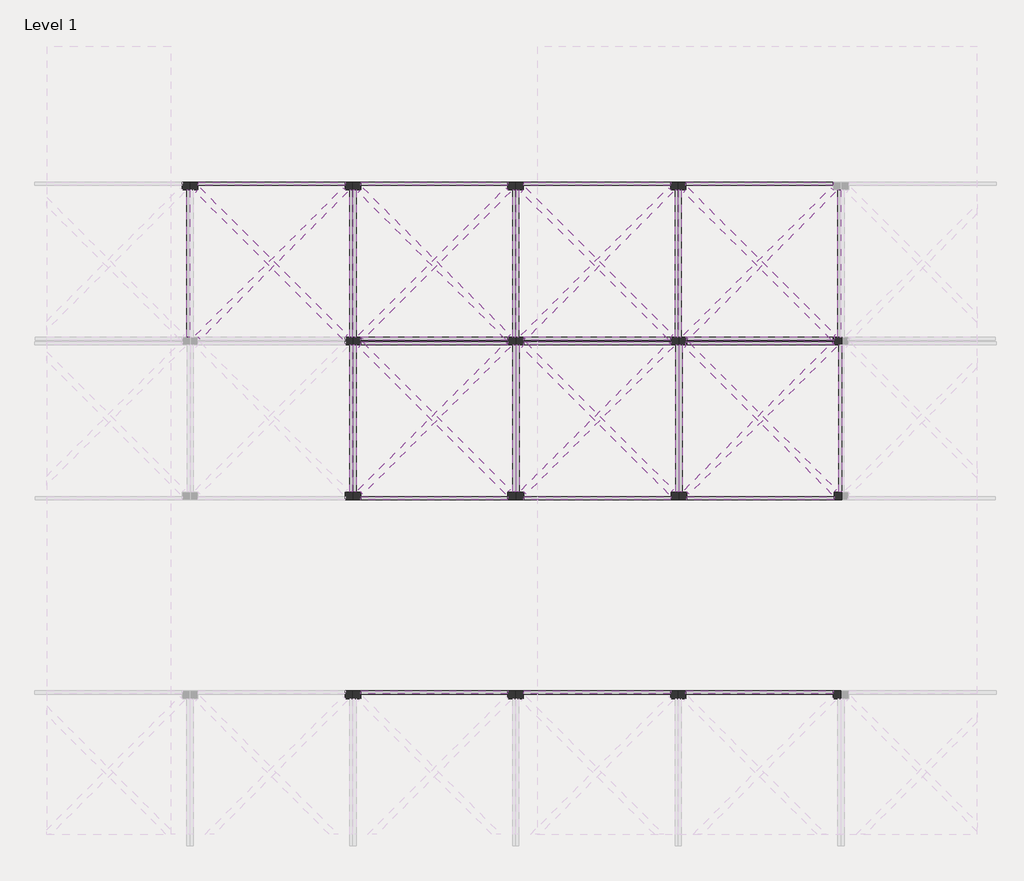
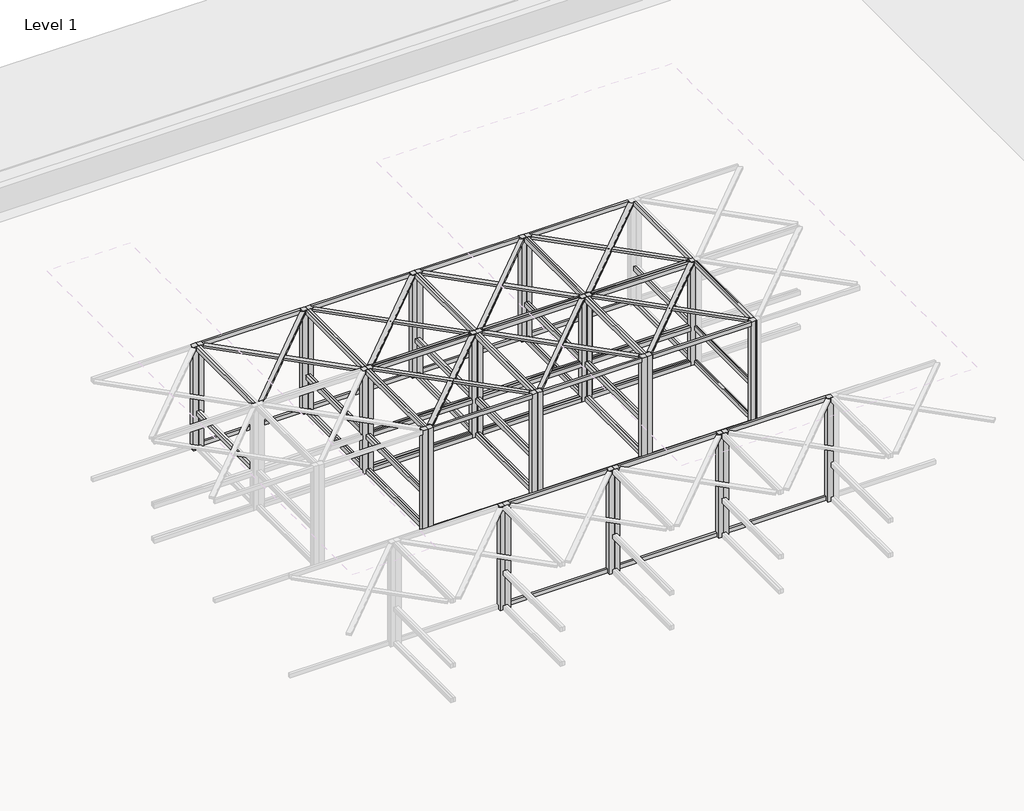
# One storey, part 24 of 32: 96 beams, 36 columns.
"""IFC4 building model written with IfcOpenShell, lengths in millimetres."""

from ifc_helpers import new_model, si_unit, origin, place, context, project, spatial, transform, mapped, element, save
from components import timber_gauged_nz_100_x_50_a05adcf6, timber_gauged_nz_100_x_50_e4b9d06e, timber_gauged_nz_100_x_50_66b63d81, timber_gauged_nz_100_x_50_718b6390, timber_gauged_nz_100_x_50_7774ab14, timber_gauged_nz_100_x_50_be6c7ca1, timber_gauged_nz_100_x_50_6be5a70a, timber_gauged_nz_100_x_50_7b7bee40, timber_gauged_nz_100_x_50_flat_212af973, timber_gauged_nz_100_x_50_flat_8016973c, column_timber_m_114x114_3b5997c2

model = new_model("IFC4")

# Units and contexts
model_context = context("Model", 3, world=origin())
ifc_project = project(units=[si_unit("LENGTHUNIT", "METRE", prefix="MILLI")], contexts=[model_context])

# Site, building, storey
site = spatial("IfcSite", under=ifc_project)
building = spatial("IfcBuilding", under=site)
storey = spatial("IfcBuildingStorey", under=building, Name="Level 1", Elevation=2800.0)

# Beams
placement = place(None, origin())
timber_gauged_nz_100_x_50_shape = timber_gauged_nz_100_x_50_a05adcf6(model_context)
element("IfcBeam", 1, ObjectType="Timber Gauged (NZ) : 100 x 50", at=placement, inside=storey, context=model_context, shape_type="MappedRepresentation", body=[
    mapped(timber_gauged_nz_100_x_50_shape, transform((-69999.6556755, -2611.9011548, 2847.0), x_axis=(1.0, 0.0, 0.0), y_axis=(0.0, 1.0, 0.0), z_axis=(0.0, 0.0, 1.0))),
])
element("IfcBeam", 2, ObjectType="Timber Gauged (NZ) : 100 x 50", at=placement, inside=storey, context=model_context, shape_type="MappedRepresentation", body=[
    mapped(timber_gauged_nz_100_x_50_shape, transform((-67595.3056755, -2611.9011548, 2847.0), x_axis=(1.0, 0.0, 0.0), y_axis=(0.0, 1.0, 0.0), z_axis=(0.0, 0.0, 1.0))),
])
element("IfcBeam", 3, ObjectType="Timber Gauged (NZ) : 100 x 50", at=placement, inside=storey, context=model_context, shape_type="MappedRepresentation", body=[
    mapped(timber_gauged_nz_100_x_50_shape, transform((-65190.9556755, -2611.9011548, 2847.0), x_axis=(1.0, 0.0, 0.0), y_axis=(0.0, 1.0, 0.0), z_axis=(0.0, 0.0, 1.0))),
])
element("IfcBeam", 4, ObjectType="Timber Gauged (NZ) : 100 x 50", at=placement, inside=storey, context=model_context, shape_type="MappedRepresentation", body=[
    mapped(timber_gauged_nz_100_x_50_shape, transform((-65204.0056755, -2682.1175809, 2847.0), x_axis=(-1.0, 0.0, 0.0), y_axis=(0.0, -1.0, 0.0), z_axis=(0.0, 0.0, 1.0))),
])
element("IfcBeam", 5, ObjectType="Timber Gauged (NZ) : 100 x 50", at=placement, inside=storey, context=model_context, shape_type="MappedRepresentation", body=[
    mapped(timber_gauged_nz_100_x_50_shape, transform((-67599.6556755, -2682.1175809, 2847.0), x_axis=(-1.0, 0.0, 0.0), y_axis=(0.0, -1.0, 0.0), z_axis=(0.0, 0.0, 1.0))),
])
element("IfcBeam", 6, ObjectType="Timber Gauged (NZ) : 100 x 50", at=placement, inside=storey, context=model_context, shape_type="MappedRepresentation", body=[
    mapped(timber_gauged_nz_100_x_50_shape, transform((-69999.6556755, -2682.1175809, 2847.0), x_axis=(-1.0, 0.0, 0.0), y_axis=(0.0, -1.0, 0.0), z_axis=(0.0, 0.0, 1.0))),
])
timber_gauged_nz_100_x_50_2_shape = timber_gauged_nz_100_x_50_e4b9d06e(model_context)
element("IfcBeam", 7, ObjectType="Timber Gauged (NZ) : 100 x 50", at=placement, inside=storey, context=model_context, shape_type="MappedRepresentation", body=[
    mapped(timber_gauged_nz_100_x_50_2_shape, transform((-65190.8306755, -7829.1175809, 2847.0), x_axis=(-1.0, 0.0, 0.0), y_axis=(0.0, -1.0, 0.0), z_axis=(0.0, 0.0, 1.0))),
])
element("IfcBeam", 8, ObjectType="Timber Gauged (NZ) : 100 x 50", at=placement, inside=storey, context=model_context, shape_type="MappedRepresentation", body=[
    mapped(timber_gauged_nz_100_x_50_2_shape, transform((-67586.4806755, -7829.1175809, 2847.0), x_axis=(-1.0, 0.0, 0.0), y_axis=(0.0, -1.0, 0.0), z_axis=(0.0, 0.0, 1.0))),
])
element("IfcBeam", 9, ObjectType="Timber Gauged (NZ) : 100 x 50", at=placement, inside=storey, context=model_context, shape_type="MappedRepresentation", body=[
    mapped(timber_gauged_nz_100_x_50_2_shape, transform((-69986.4806755, -7829.1175809, 2847.0), x_axis=(-1.0, 0.0, 0.0), y_axis=(0.0, -1.0, 0.0), z_axis=(0.0, 0.0, 1.0))),
])
element("IfcBeam", 10, ObjectType="Timber Gauged (NZ) : 100 x 50", at=placement, inside=storey, context=model_context, shape_type="MappedRepresentation", body=[
    mapped(timber_gauged_nz_100_x_50_2_shape, transform((-70012.8306755, -4964.9011548, 2847.0), x_axis=(1.0, 0.0, 0.0), y_axis=(0.0, 1.0, 0.0), z_axis=(0.0, 0.0, 1.0))),
])
element("IfcBeam", 11, ObjectType="Timber Gauged (NZ) : 100 x 50", at=placement, inside=storey, context=model_context, shape_type="MappedRepresentation", body=[
    mapped(timber_gauged_nz_100_x_50_2_shape, transform((-67608.4806755, -4964.9011548, 2847.0), x_axis=(1.0, 0.0, 0.0), y_axis=(0.0, 1.0, 0.0), z_axis=(0.0, 0.0, 1.0))),
])
element("IfcBeam", 12, ObjectType="Timber Gauged (NZ) : 100 x 50", at=placement, inside=storey, context=model_context, shape_type="MappedRepresentation", body=[
    mapped(timber_gauged_nz_100_x_50_2_shape, transform((-65204.1306755, -4964.9011548, 2847.0), x_axis=(1.0, 0.0, 0.0), y_axis=(0.0, 1.0, 0.0), z_axis=(0.0, 0.0, 1.0))),
])
element("IfcBeam", 13, ObjectType="Timber Gauged (NZ) : 100 x 50", at=placement, inside=storey, context=model_context, shape_type="MappedRepresentation", body=[
    mapped(timber_gauged_nz_100_x_50_2_shape, transform((-65190.8306755, -329.1175809, 2847.0), x_axis=(-1.0, 0.0, 0.0), y_axis=(0.0, -1.0, 0.0), z_axis=(0.0, 0.0, 1.0))),
])
element("IfcBeam", 14, ObjectType="Timber Gauged (NZ) : 100 x 50", at=placement, inside=storey, context=model_context, shape_type="MappedRepresentation", body=[
    mapped(timber_gauged_nz_100_x_50_2_shape, transform((-67586.4806755, -329.1175809, 2847.0), x_axis=(-1.0, 0.0, 0.0), y_axis=(0.0, -1.0, 0.0), z_axis=(0.0, 0.0, 1.0))),
])
element("IfcBeam", 15, ObjectType="Timber Gauged (NZ) : 100 x 50", at=placement, inside=storey, context=model_context, shape_type="MappedRepresentation", body=[
    mapped(timber_gauged_nz_100_x_50_2_shape, transform((-69986.4806755, -329.1175809, 2847.0), x_axis=(-1.0, 0.0, 0.0), y_axis=(0.0, -1.0, 0.0), z_axis=(0.0, 0.0, 1.0))),
])
element("IfcBeam", 16, ObjectType="Timber Gauged (NZ) : 100 x 50", at=placement, inside=storey, context=model_context, shape_type="MappedRepresentation", body=[
    mapped(timber_gauged_nz_100_x_50_2_shape, transform((-72386.4806755, -329.1175809, 2847.0), x_axis=(-1.0, 0.0, 0.0), y_axis=(0.0, -1.0, 0.0), z_axis=(0.0, 0.0, 1.0))),
])
timber_gauged_nz_100_x_50_3_shape = timber_gauged_nz_100_x_50_66b63d81(model_context)
element("IfcBeam", 17, ObjectType="Timber Gauged (NZ) : 100 x 50", at=placement, inside=storey, context=model_context, shape_type="MappedRepresentation", body=[
    mapped(timber_gauged_nz_100_x_50_3_shape, transform((-71176.1556755, -3788.4011548, 2847.0), x_axis=(0.0, -1.0, 0.0), y_axis=(1.0, 0.0, 0.0), z_axis=(0.0, 0.0, 1.0))),
])
element("IfcBeam", 18, ObjectType="Timber Gauged (NZ) : 100 x 50", at=placement, inside=storey, context=model_context, shape_type="MappedRepresentation", body=[
    mapped(timber_gauged_nz_100_x_50_3_shape, transform((-68771.8056755, -3788.4011548, 2847.0), x_axis=(0.0, -1.0, 0.0), y_axis=(1.0, 0.0, 0.0), z_axis=(0.0, 0.0, 1.0))),
])
element("IfcBeam", 19, ObjectType="Timber Gauged (NZ) : 100 x 50", at=placement, inside=storey, context=model_context, shape_type="MappedRepresentation", body=[
    mapped(timber_gauged_nz_100_x_50_3_shape, transform((-66367.4556755, -3788.4011548, 2847.0), x_axis=(0.0, -1.0, 0.0), y_axis=(1.0, 0.0, 0.0), z_axis=(0.0, 0.0, 1.0))),
])
element("IfcBeam", 20, ObjectType="Timber Gauged (NZ) : 100 x 50", at=placement, inside=storey, context=model_context, shape_type="MappedRepresentation", body=[
    mapped(timber_gauged_nz_100_x_50_3_shape, transform((-64027.5056755, -1505.6175809, 2847.0), x_axis=(0.0, 1.0, 0.0), y_axis=(-1.0, 0.0, 0.0), z_axis=(0.0, 0.0, 1.0))),
])
element("IfcBeam", 21, ObjectType="Timber Gauged (NZ) : 100 x 50", at=placement, inside=storey, context=model_context, shape_type="MappedRepresentation", body=[
    mapped(timber_gauged_nz_100_x_50_3_shape, transform((-66423.1556755, -1505.6175809, 2847.0), x_axis=(0.0, 1.0, 0.0), y_axis=(-1.0, 0.0, 0.0), z_axis=(0.0, 0.0, 1.0))),
])
element("IfcBeam", 22, ObjectType="Timber Gauged (NZ) : 100 x 50", at=placement, inside=storey, context=model_context, shape_type="MappedRepresentation", body=[
    mapped(timber_gauged_nz_100_x_50_3_shape, transform((-68823.1556755, -1505.6175809, 2847.0), x_axis=(0.0, 1.0, 0.0), y_axis=(-1.0, 0.0, 0.0), z_axis=(0.0, 0.0, 1.0))),
])
element("IfcBeam", 23, ObjectType="Timber Gauged (NZ) : 100 x 50", at=placement, inside=storey, context=model_context, shape_type="MappedRepresentation", body=[
    mapped(timber_gauged_nz_100_x_50_3_shape, transform((-71223.1556755, -1505.6175809, 2847.0), x_axis=(0.0, 1.0, 0.0), y_axis=(-1.0, 0.0, 0.0), z_axis=(0.0, 0.0, 1.0))),
])
element("IfcBeam", 24, ObjectType="Timber Gauged (NZ) : 100 x 50", at=placement, inside=storey, context=model_context, shape_type="MappedRepresentation", body=[
    mapped(timber_gauged_nz_100_x_50_3_shape, transform((-71223.1556755, -3788.4011548, 2847.0), x_axis=(0.0, -1.0, 0.0), y_axis=(1.0, 0.0, 0.0), z_axis=(0.0, 0.0, 1.0))),
])
element("IfcBeam", 25, ObjectType="Timber Gauged (NZ) : 100 x 50", at=placement, inside=storey, context=model_context, shape_type="MappedRepresentation", body=[
    mapped(timber_gauged_nz_100_x_50_3_shape, transform((-68823.1556755, -3788.4011548, 2847.0), x_axis=(0.0, -1.0, 0.0), y_axis=(1.0, 0.0, 0.0), z_axis=(0.0, 0.0, 1.0))),
])
element("IfcBeam", 26, ObjectType="Timber Gauged (NZ) : 100 x 50", at=placement, inside=storey, context=model_context, shape_type="MappedRepresentation", body=[
    mapped(timber_gauged_nz_100_x_50_3_shape, transform((-66418.8056755, -3788.4011548, 2847.0), x_axis=(0.0, -1.0, 0.0), y_axis=(1.0, 0.0, 0.0), z_axis=(0.0, 0.0, 1.0))),
])
element("IfcBeam", 27, ObjectType="Timber Gauged (NZ) : 100 x 50", at=placement, inside=storey, context=model_context, shape_type="MappedRepresentation", body=[
    mapped(timber_gauged_nz_100_x_50_3_shape, transform((-64014.4556755, -3788.4011548, 2847.0), x_axis=(0.0, -1.0, 0.0), y_axis=(1.0, 0.0, 0.0), z_axis=(0.0, 0.0, 1.0))),
])
element("IfcBeam", 28, ObjectType="Timber Gauged (NZ) : 100 x 50", at=placement, inside=storey, context=model_context, shape_type="MappedRepresentation", body=[
    mapped(timber_gauged_nz_100_x_50_3_shape, transform((-66380.5056755, -1505.6175809, 2847.0), x_axis=(0.0, 1.0, 0.0), y_axis=(-1.0, 0.0, 0.0), z_axis=(0.0, 0.0, 1.0))),
])
element("IfcBeam", 29, ObjectType="Timber Gauged (NZ) : 100 x 50", at=placement, inside=storey, context=model_context, shape_type="MappedRepresentation", body=[
    mapped(timber_gauged_nz_100_x_50_3_shape, transform((-68776.1556755, -1505.6175809, 2847.0), x_axis=(0.0, 1.0, 0.0), y_axis=(-1.0, 0.0, 0.0), z_axis=(0.0, 0.0, 1.0))),
])
element("IfcBeam", 30, ObjectType="Timber Gauged (NZ) : 100 x 50", at=placement, inside=storey, context=model_context, shape_type="MappedRepresentation", body=[
    mapped(timber_gauged_nz_100_x_50_3_shape, transform((-71176.1556755, -1505.6175809, 2847.0), x_axis=(0.0, 1.0, 0.0), y_axis=(-1.0, 0.0, 0.0), z_axis=(0.0, 0.0, 1.0))),
])
timber_gauged_nz_100_x_50_4_shape = timber_gauged_nz_100_x_50_718b6390(model_context)
element("IfcBeam", 31, ObjectType="Timber Gauged (NZ) : 100 x 50", at=placement, inside=storey, context=model_context, shape_type="MappedRepresentation", body=[
    mapped(timber_gauged_nz_100_x_50_4_shape, transform((-70007.5056755, -2611.9011548, 5153.0), x_axis=(1.0, 0.0, 0.0), y_axis=(0.0, 1.0, 0.0), z_axis=(0.0, 0.0, 1.0))),
])
element("IfcBeam", 32, ObjectType="Timber Gauged (NZ) : 100 x 50", at=placement, inside=storey, context=model_context, shape_type="MappedRepresentation", body=[
    mapped(timber_gauged_nz_100_x_50_4_shape, transform((-70007.5056755, -2611.9011548, 3653.0), x_axis=(1.0, 0.0, 0.0), y_axis=(0.0, 1.0, 0.0), z_axis=(0.0, 0.0, 1.0))),
])
element("IfcBeam", 33, ObjectType="Timber Gauged (NZ) : 100 x 50", at=placement, inside=storey, context=model_context, shape_type="MappedRepresentation", body=[
    mapped(timber_gauged_nz_100_x_50_4_shape, transform((-67603.1556755, -2611.9011548, 5153.0), x_axis=(1.0, 0.0, 0.0), y_axis=(0.0, 1.0, 0.0), z_axis=(0.0, 0.0, 1.0))),
])
element("IfcBeam", 34, ObjectType="Timber Gauged (NZ) : 100 x 50", at=placement, inside=storey, context=model_context, shape_type="MappedRepresentation", body=[
    mapped(timber_gauged_nz_100_x_50_4_shape, transform((-67603.1556755, -2611.9011548, 3653.0), x_axis=(1.0, 0.0, 0.0), y_axis=(0.0, 1.0, 0.0), z_axis=(0.0, 0.0, 1.0))),
])
element("IfcBeam", 35, ObjectType="Timber Gauged (NZ) : 100 x 50", at=placement, inside=storey, context=model_context, shape_type="MappedRepresentation", body=[
    mapped(timber_gauged_nz_100_x_50_4_shape, transform((-65198.8056755, -2611.9011548, 5153.0), x_axis=(1.0, 0.0, 0.0), y_axis=(0.0, 1.0, 0.0), z_axis=(0.0, 0.0, 1.0))),
])
element("IfcBeam", 36, ObjectType="Timber Gauged (NZ) : 100 x 50", at=placement, inside=storey, context=model_context, shape_type="MappedRepresentation", body=[
    mapped(timber_gauged_nz_100_x_50_4_shape, transform((-65198.8056755, -2611.9011548, 3653.0), x_axis=(1.0, 0.0, 0.0), y_axis=(0.0, 1.0, 0.0), z_axis=(0.0, 0.0, 1.0))),
])
element("IfcBeam", 37, ObjectType="Timber Gauged (NZ) : 100 x 50", at=placement, inside=storey, context=model_context, shape_type="MappedRepresentation", body=[
    mapped(timber_gauged_nz_100_x_50_4_shape, transform((-65196.1556755, -2682.1175809, 5153.0), x_axis=(-1.0, 0.0, 0.0), y_axis=(0.0, -1.0, 0.0), z_axis=(0.0, 0.0, 1.0))),
])
element("IfcBeam", 38, ObjectType="Timber Gauged (NZ) : 100 x 50", at=placement, inside=storey, context=model_context, shape_type="MappedRepresentation", body=[
    mapped(timber_gauged_nz_100_x_50_4_shape, transform((-65196.1556755, -2682.1175809, 3653.0), x_axis=(-1.0, 0.0, 0.0), y_axis=(0.0, -1.0, 0.0), z_axis=(0.0, 0.0, 1.0))),
])
element("IfcBeam", 39, ObjectType="Timber Gauged (NZ) : 100 x 50", at=placement, inside=storey, context=model_context, shape_type="MappedRepresentation", body=[
    mapped(timber_gauged_nz_100_x_50_4_shape, transform((-67591.8056755, -2682.1175809, 5153.0), x_axis=(-1.0, 0.0, 0.0), y_axis=(0.0, -1.0, 0.0), z_axis=(0.0, 0.0, 1.0))),
])
element("IfcBeam", 40, ObjectType="Timber Gauged (NZ) : 100 x 50", at=placement, inside=storey, context=model_context, shape_type="MappedRepresentation", body=[
    mapped(timber_gauged_nz_100_x_50_4_shape, transform((-67591.8056755, -2682.1175809, 3653.0), x_axis=(-1.0, 0.0, 0.0), y_axis=(0.0, -1.0, 0.0), z_axis=(0.0, 0.0, 1.0))),
])
element("IfcBeam", 41, ObjectType="Timber Gauged (NZ) : 100 x 50", at=placement, inside=storey, context=model_context, shape_type="MappedRepresentation", body=[
    mapped(timber_gauged_nz_100_x_50_4_shape, transform((-69991.8056755, -2682.1175809, 5153.0), x_axis=(-1.0, 0.0, 0.0), y_axis=(0.0, -1.0, 0.0), z_axis=(0.0, 0.0, 1.0))),
])
element("IfcBeam", 42, ObjectType="Timber Gauged (NZ) : 100 x 50", at=placement, inside=storey, context=model_context, shape_type="MappedRepresentation", body=[
    mapped(timber_gauged_nz_100_x_50_4_shape, transform((-69991.8056755, -2682.1175809, 3653.0), x_axis=(-1.0, 0.0, 0.0), y_axis=(0.0, -1.0, 0.0), z_axis=(0.0, 0.0, 1.0))),
])
timber_gauged_nz_100_x_50_5_shape = timber_gauged_nz_100_x_50_7774ab14(model_context)
element("IfcBeam", 43, ObjectType="Timber Gauged (NZ) : 100 x 50", at=placement, inside=storey, context=model_context, shape_type="MappedRepresentation", body=[
    mapped(timber_gauged_nz_100_x_50_5_shape, transform((-65208.6556755, -7829.1175809, 5153.0), x_axis=(-1.0, 0.0, 0.0), y_axis=(0.0, -1.0, 0.0), z_axis=(0.0, 0.0, 1.0))),
])
element("IfcBeam", 44, ObjectType="Timber Gauged (NZ) : 100 x 50", at=placement, inside=storey, context=model_context, shape_type="MappedRepresentation", body=[
    mapped(timber_gauged_nz_100_x_50_5_shape, transform((-67604.3056755, -7829.1175809, 5153.0), x_axis=(-1.0, 0.0, 0.0), y_axis=(0.0, -1.0, 0.0), z_axis=(0.0, 0.0, 1.0))),
])
element("IfcBeam", 45, ObjectType="Timber Gauged (NZ) : 100 x 50", at=placement, inside=storey, context=model_context, shape_type="MappedRepresentation", body=[
    mapped(timber_gauged_nz_100_x_50_5_shape, transform((-70004.3056755, -7829.1175809, 5153.0), x_axis=(-1.0, 0.0, 0.0), y_axis=(0.0, -1.0, 0.0), z_axis=(0.0, 0.0, 1.0))),
])
element("IfcBeam", 46, ObjectType="Timber Gauged (NZ) : 100 x 50", at=placement, inside=storey, context=model_context, shape_type="MappedRepresentation", body=[
    mapped(timber_gauged_nz_100_x_50_5_shape, transform((-69995.0056755, -4964.9011548, 5153.0), x_axis=(1.0, 0.0, 0.0), y_axis=(0.0, 1.0, 0.0), z_axis=(0.0, 0.0, 1.0))),
])
element("IfcBeam", 47, ObjectType="Timber Gauged (NZ) : 100 x 50", at=placement, inside=storey, context=model_context, shape_type="MappedRepresentation", body=[
    mapped(timber_gauged_nz_100_x_50_5_shape, transform((-67590.6556755, -4964.9011548, 5153.0), x_axis=(1.0, 0.0, 0.0), y_axis=(0.0, 1.0, 0.0), z_axis=(0.0, 0.0, 1.0))),
])
element("IfcBeam", 48, ObjectType="Timber Gauged (NZ) : 100 x 50", at=placement, inside=storey, context=model_context, shape_type="MappedRepresentation", body=[
    mapped(timber_gauged_nz_100_x_50_5_shape, transform((-65186.3056755, -4964.9011548, 5153.0), x_axis=(1.0, 0.0, 0.0), y_axis=(0.0, 1.0, 0.0), z_axis=(0.0, 0.0, 1.0))),
])
element("IfcBeam", 49, ObjectType="Timber Gauged (NZ) : 100 x 50", at=placement, inside=storey, context=model_context, shape_type="MappedRepresentation", body=[
    mapped(timber_gauged_nz_100_x_50_5_shape, transform((-65208.6556755, -329.1175809, 5153.0), x_axis=(-1.0, 0.0, 0.0), y_axis=(0.0, -1.0, 0.0), z_axis=(0.0, 0.0, 1.0))),
])
element("IfcBeam", 50, ObjectType="Timber Gauged (NZ) : 100 x 50", at=placement, inside=storey, context=model_context, shape_type="MappedRepresentation", body=[
    mapped(timber_gauged_nz_100_x_50_5_shape, transform((-67604.3056755, -329.1175809, 5153.0), x_axis=(-1.0, 0.0, 0.0), y_axis=(0.0, -1.0, 0.0), z_axis=(0.0, 0.0, 1.0))),
])
element("IfcBeam", 51, ObjectType="Timber Gauged (NZ) : 100 x 50", at=placement, inside=storey, context=model_context, shape_type="MappedRepresentation", body=[
    mapped(timber_gauged_nz_100_x_50_5_shape, transform((-70004.3056755, -329.1175809, 5153.0), x_axis=(-1.0, 0.0, 0.0), y_axis=(0.0, -1.0, 0.0), z_axis=(0.0, 0.0, 1.0))),
])
element("IfcBeam", 52, ObjectType="Timber Gauged (NZ) : 100 x 50", at=placement, inside=storey, context=model_context, shape_type="MappedRepresentation", body=[
    mapped(timber_gauged_nz_100_x_50_5_shape, transform((-72404.3056755, -329.1175809, 5153.0), x_axis=(-1.0, 0.0, 0.0), y_axis=(0.0, -1.0, 0.0), z_axis=(0.0, 0.0, 1.0))),
])
timber_gauged_nz_100_x_50_6_shape = timber_gauged_nz_100_x_50_be6c7ca1(model_context)
element("IfcBeam", 53, ObjectType="Timber Gauged (NZ) : 100 x 50", at=placement, inside=storey, context=model_context, shape_type="MappedRepresentation", body=[
    mapped(timber_gauged_nz_100_x_50_6_shape, transform((-71176.1556755, -3719.9011548, 5153.0), x_axis=(0.0, -1.0, 0.0), y_axis=(1.0, 0.0, 0.0), z_axis=(0.0, 0.0, 1.0))),
])
element("IfcBeam", 54, ObjectType="Timber Gauged (NZ) : 100 x 50", at=placement, inside=storey, context=model_context, shape_type="MappedRepresentation", body=[
    mapped(timber_gauged_nz_100_x_50_6_shape, transform((-68771.8056755, -3719.9011548, 5153.0), x_axis=(0.0, -1.0, 0.0), y_axis=(1.0, 0.0, 0.0), z_axis=(0.0, 0.0, 1.0))),
])
element("IfcBeam", 55, ObjectType="Timber Gauged (NZ) : 100 x 50", at=placement, inside=storey, context=model_context, shape_type="MappedRepresentation", body=[
    mapped(timber_gauged_nz_100_x_50_6_shape, transform((-66367.4556755, -3719.9011548, 5153.0), x_axis=(0.0, -1.0, 0.0), y_axis=(1.0, 0.0, 0.0), z_axis=(0.0, 0.0, 1.0))),
])
element("IfcBeam", 56, ObjectType="Timber Gauged (NZ) : 100 x 50", at=placement, inside=storey, context=model_context, shape_type="MappedRepresentation", body=[
    mapped(timber_gauged_nz_100_x_50_6_shape, transform((-64027.5056755, -1574.1175809, 5153.0), x_axis=(0.0, 1.0, 0.0), y_axis=(-1.0, 0.0, 0.0), z_axis=(0.0, 0.0, 1.0))),
])
element("IfcBeam", 57, ObjectType="Timber Gauged (NZ) : 100 x 50", at=placement, inside=storey, context=model_context, shape_type="MappedRepresentation", body=[
    mapped(timber_gauged_nz_100_x_50_6_shape, transform((-66423.1556755, -1574.1175809, 5153.0), x_axis=(0.0, 1.0, 0.0), y_axis=(-1.0, 0.0, 0.0), z_axis=(0.0, 0.0, 1.0))),
])
element("IfcBeam", 58, ObjectType="Timber Gauged (NZ) : 100 x 50", at=placement, inside=storey, context=model_context, shape_type="MappedRepresentation", body=[
    mapped(timber_gauged_nz_100_x_50_6_shape, transform((-68823.1556755, -1574.1175809, 5153.0), x_axis=(0.0, 1.0, 0.0), y_axis=(-1.0, 0.0, 0.0), z_axis=(0.0, 0.0, 1.0))),
])
element("IfcBeam", 59, ObjectType="Timber Gauged (NZ) : 100 x 50", at=placement, inside=storey, context=model_context, shape_type="MappedRepresentation", body=[
    mapped(timber_gauged_nz_100_x_50_6_shape, transform((-71223.1556755, -1574.1175809, 5153.0), x_axis=(0.0, 1.0, 0.0), y_axis=(-1.0, 0.0, 0.0), z_axis=(0.0, 0.0, 1.0))),
])
element("IfcBeam", 60, ObjectType="Timber Gauged (NZ) : 100 x 50", at=placement, inside=storey, context=model_context, shape_type="MappedRepresentation", body=[
    mapped(timber_gauged_nz_100_x_50_6_shape, transform((-73627.5056755, -1574.1175809, 5153.0), x_axis=(0.0, 1.0, 0.0), y_axis=(-1.0, 0.0, 0.0), z_axis=(0.0, 0.0, 1.0))),
])
timber_gauged_nz_100_x_50_7_shape = timber_gauged_nz_100_x_50_6be5a70a(model_context)
element("IfcBeam", 61, ObjectType="Timber Gauged (NZ) : 100 x 50", at=placement, inside=storey, context=model_context, shape_type="MappedRepresentation", body=[
    mapped(timber_gauged_nz_100_x_50_7_shape, transform((-71223.1556755, -3764.9011548, 5153.0), x_axis=(0.0, -1.0, 0.0), y_axis=(1.0, 0.0, 0.0), z_axis=(0.0, 0.0, 1.0))),
])
element("IfcBeam", 62, ObjectType="Timber Gauged (NZ) : 100 x 50", at=placement, inside=storey, context=model_context, shape_type="MappedRepresentation", body=[
    mapped(timber_gauged_nz_100_x_50_7_shape, transform((-68823.1556755, -3764.9011548, 5153.0), x_axis=(0.0, -1.0, 0.0), y_axis=(1.0, 0.0, 0.0), z_axis=(0.0, 0.0, 1.0))),
])
element("IfcBeam", 63, ObjectType="Timber Gauged (NZ) : 100 x 50", at=placement, inside=storey, context=model_context, shape_type="MappedRepresentation", body=[
    mapped(timber_gauged_nz_100_x_50_7_shape, transform((-66418.8056755, -3764.9011548, 5153.0), x_axis=(0.0, -1.0, 0.0), y_axis=(1.0, 0.0, 0.0), z_axis=(0.0, 0.0, 1.0))),
])
element("IfcBeam", 64, ObjectType="Timber Gauged (NZ) : 100 x 50", at=placement, inside=storey, context=model_context, shape_type="MappedRepresentation", body=[
    mapped(timber_gauged_nz_100_x_50_7_shape, transform((-64014.4556755, -3764.9011548, 5153.0), x_axis=(0.0, -1.0, 0.0), y_axis=(1.0, 0.0, 0.0), z_axis=(0.0, 0.0, 1.0))),
])
element("IfcBeam", 65, ObjectType="Timber Gauged (NZ) : 100 x 50", at=placement, inside=storey, context=model_context, shape_type="MappedRepresentation", body=[
    mapped(timber_gauged_nz_100_x_50_7_shape, transform((-66380.5056755, -1529.1175809, 5153.0), x_axis=(0.0, 1.0, 0.0), y_axis=(-1.0, 0.0, 0.0), z_axis=(0.0, 0.0, 1.0))),
])
element("IfcBeam", 66, ObjectType="Timber Gauged (NZ) : 100 x 50", at=placement, inside=storey, context=model_context, shape_type="MappedRepresentation", body=[
    mapped(timber_gauged_nz_100_x_50_7_shape, transform((-68776.1556755, -1529.1175809, 5153.0), x_axis=(0.0, 1.0, 0.0), y_axis=(-1.0, 0.0, 0.0), z_axis=(0.0, 0.0, 1.0))),
])
element("IfcBeam", 67, ObjectType="Timber Gauged (NZ) : 100 x 50", at=placement, inside=storey, context=model_context, shape_type="MappedRepresentation", body=[
    mapped(timber_gauged_nz_100_x_50_7_shape, transform((-71176.1556755, -1529.1175809, 5153.0), x_axis=(0.0, 1.0, 0.0), y_axis=(-1.0, 0.0, 0.0), z_axis=(0.0, 0.0, 1.0))),
])
timber_gauged_nz_100_x_50_8_shape = timber_gauged_nz_100_x_50_7b7bee40(model_context)
element("IfcBeam", 68, ObjectType="Timber Gauged (NZ) : 100 x 50", at=placement, inside=storey, context=model_context, shape_type="MappedRepresentation", body=[
    mapped(timber_gauged_nz_100_x_50_8_shape, transform((-71176.1556755, -3844.9011548, 3653.0), x_axis=(0.0, -1.0, 0.0), y_axis=(1.0, 0.0, 0.0), z_axis=(0.0, 0.0, 1.0))),
])
element("IfcBeam", 69, ObjectType="Timber Gauged (NZ) : 100 x 50", at=placement, inside=storey, context=model_context, shape_type="MappedRepresentation", body=[
    mapped(timber_gauged_nz_100_x_50_8_shape, transform((-68771.8056755, -3844.9011548, 3653.0), x_axis=(0.0, -1.0, 0.0), y_axis=(1.0, 0.0, 0.0), z_axis=(0.0, 0.0, 1.0))),
])
element("IfcBeam", 70, ObjectType="Timber Gauged (NZ) : 100 x 50", at=placement, inside=storey, context=model_context, shape_type="MappedRepresentation", body=[
    mapped(timber_gauged_nz_100_x_50_8_shape, transform((-66367.4556755, -3844.9011548, 3653.0), x_axis=(0.0, -1.0, 0.0), y_axis=(1.0, 0.0, 0.0), z_axis=(0.0, 0.0, 1.0))),
])
element("IfcBeam", 71, ObjectType="Timber Gauged (NZ) : 100 x 50", at=placement, inside=storey, context=model_context, shape_type="MappedRepresentation", body=[
    mapped(timber_gauged_nz_100_x_50_8_shape, transform((-64027.5056755, -1449.1175809, 3653.0), x_axis=(0.0, 1.0, 0.0), y_axis=(-1.0, 0.0, 0.0), z_axis=(0.0, 0.0, 1.0))),
])
element("IfcBeam", 72, ObjectType="Timber Gauged (NZ) : 100 x 50", at=placement, inside=storey, context=model_context, shape_type="MappedRepresentation", body=[
    mapped(timber_gauged_nz_100_x_50_8_shape, transform((-66423.1556755, -1449.1175809, 3653.0), x_axis=(0.0, 1.0, 0.0), y_axis=(-1.0, 0.0, 0.0), z_axis=(0.0, 0.0, 1.0))),
])
element("IfcBeam", 73, ObjectType="Timber Gauged (NZ) : 100 x 50", at=placement, inside=storey, context=model_context, shape_type="MappedRepresentation", body=[
    mapped(timber_gauged_nz_100_x_50_8_shape, transform((-68823.1556755, -1449.1175809, 3653.0), x_axis=(0.0, 1.0, 0.0), y_axis=(-1.0, 0.0, 0.0), z_axis=(0.0, 0.0, 1.0))),
])
element("IfcBeam", 74, ObjectType="Timber Gauged (NZ) : 100 x 50", at=placement, inside=storey, context=model_context, shape_type="MappedRepresentation", body=[
    mapped(timber_gauged_nz_100_x_50_8_shape, transform((-71223.1556755, -1449.1175809, 3653.0), x_axis=(0.0, 1.0, 0.0), y_axis=(-1.0, 0.0, 0.0), z_axis=(0.0, 0.0, 1.0))),
])
element("IfcBeam", 75, ObjectType="Timber Gauged (NZ) : 100 x 50", at=placement, inside=storey, context=model_context, shape_type="MappedRepresentation", body=[
    mapped(timber_gauged_nz_100_x_50_8_shape, transform((-73627.5056755, -1449.1175809, 3653.0), x_axis=(0.0, 1.0, 0.0), y_axis=(-1.0, 0.0, 0.0), z_axis=(0.0, 0.0, 1.0))),
])
element("IfcBeam", 76, ObjectType="Timber Gauged (NZ) : 100 x 50", at=placement, inside=storey, context=model_context, shape_type="MappedRepresentation", body=[
    mapped(timber_gauged_nz_100_x_50_7_shape, transform((-71223.1556755, -3764.7011548, 3653.0), x_axis=(0.0, -1.0, 0.0), y_axis=(1.0, 0.0, 0.0), z_axis=(0.0, 0.0, 1.0))),
])
element("IfcBeam", 77, ObjectType="Timber Gauged (NZ) : 100 x 50", at=placement, inside=storey, context=model_context, shape_type="MappedRepresentation", body=[
    mapped(timber_gauged_nz_100_x_50_7_shape, transform((-68823.1556755, -3764.7011548, 3653.0), x_axis=(0.0, -1.0, 0.0), y_axis=(1.0, 0.0, 0.0), z_axis=(0.0, 0.0, 1.0))),
])
element("IfcBeam", 78, ObjectType="Timber Gauged (NZ) : 100 x 50", at=placement, inside=storey, context=model_context, shape_type="MappedRepresentation", body=[
    mapped(timber_gauged_nz_100_x_50_7_shape, transform((-66418.8056755, -3764.7011548, 3653.0), x_axis=(0.0, -1.0, 0.0), y_axis=(1.0, 0.0, 0.0), z_axis=(0.0, 0.0, 1.0))),
])
element("IfcBeam", 79, ObjectType="Timber Gauged (NZ) : 100 x 50", at=placement, inside=storey, context=model_context, shape_type="MappedRepresentation", body=[
    mapped(timber_gauged_nz_100_x_50_7_shape, transform((-64014.4556755, -3764.7011548, 3653.0), x_axis=(0.0, -1.0, 0.0), y_axis=(1.0, 0.0, 0.0), z_axis=(0.0, 0.0, 1.0))),
])
element("IfcBeam", 80, ObjectType="Timber Gauged (NZ) : 100 x 50", at=placement, inside=storey, context=model_context, shape_type="MappedRepresentation", body=[
    mapped(timber_gauged_nz_100_x_50_7_shape, transform((-66380.5056755, -1529.3175809, 3653.0), x_axis=(0.0, 1.0, 0.0), y_axis=(-1.0, 0.0, 0.0), z_axis=(0.0, 0.0, 1.0))),
])
element("IfcBeam", 81, ObjectType="Timber Gauged (NZ) : 100 x 50", at=placement, inside=storey, context=model_context, shape_type="MappedRepresentation", body=[
    mapped(timber_gauged_nz_100_x_50_7_shape, transform((-68776.1556755, -1529.3175809, 3653.0), x_axis=(0.0, 1.0, 0.0), y_axis=(-1.0, 0.0, 0.0), z_axis=(0.0, 0.0, 1.0))),
])
element("IfcBeam", 82, ObjectType="Timber Gauged (NZ) : 100 x 50", at=placement, inside=storey, context=model_context, shape_type="MappedRepresentation", body=[
    mapped(timber_gauged_nz_100_x_50_7_shape, transform((-71176.1556755, -1529.3175809, 3653.0), x_axis=(0.0, 1.0, 0.0), y_axis=(-1.0, 0.0, 0.0), z_axis=(0.0, 0.0, 1.0))),
])
timber_gauged_nz_100_x_50_flat_shape = timber_gauged_nz_100_x_50_flat_212af973(model_context)
element("IfcBeam", 83, ObjectType="Timber Gauged (NZ) : 100 x 50 Flat", at=placement, inside=storey, context=model_context, shape_type="MappedRepresentation", body=[
    mapped(timber_gauged_nz_100_x_50_flat_shape, transform((-69995.4150144, -3783.5138698, 5176.5), x_axis=(0.707106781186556, 0.7071067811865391, 0.0), y_axis=(-0.7071067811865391, 0.707106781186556, 0.0), z_axis=(0.0, 0.0, 1.0))),
])
element("IfcBeam", 84, ObjectType="Timber Gauged (NZ) : 100 x 50 Flat", at=placement, inside=storey, context=model_context, shape_type="MappedRepresentation", body=[
    mapped(timber_gauged_nz_100_x_50_flat_shape, transform((-67591.0650144, -3783.5138698, 5176.5), x_axis=(0.707106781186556, 0.7071067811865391, 0.0), y_axis=(-0.7071067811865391, 0.707106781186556, 0.0), z_axis=(0.0, 0.0, 1.0))),
])
element("IfcBeam", 85, ObjectType="Timber Gauged (NZ) : 100 x 50 Flat", at=placement, inside=storey, context=model_context, shape_type="MappedRepresentation", body=[
    mapped(timber_gauged_nz_100_x_50_flat_shape, transform((-65186.7150144, -3783.5138698, 5176.5), x_axis=(0.707106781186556, 0.7071067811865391, 0.0), y_axis=(-0.7071067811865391, 0.707106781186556, 0.0), z_axis=(0.0, 0.0, 1.0))),
])
element("IfcBeam", 86, ObjectType="Timber Gauged (NZ) : 100 x 50 Flat", at=placement, inside=storey, context=model_context, shape_type="MappedRepresentation", body=[
    mapped(timber_gauged_nz_100_x_50_flat_shape, transform((-65208.2463365, -1510.5048659, 5176.5), x_axis=(-0.7071067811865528, -0.7071067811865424, 0.0), y_axis=(0.7071067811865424, -0.7071067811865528, 0.0), z_axis=(0.0, 0.0, 1.0))),
])
element("IfcBeam", 87, ObjectType="Timber Gauged (NZ) : 100 x 50 Flat", at=placement, inside=storey, context=model_context, shape_type="MappedRepresentation", body=[
    mapped(timber_gauged_nz_100_x_50_flat_shape, transform((-67603.8963365, -1510.5048659, 5176.5), x_axis=(-0.7071067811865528, -0.7071067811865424, 0.0), y_axis=(0.7071067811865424, -0.7071067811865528, 0.0), z_axis=(0.0, 0.0, 1.0))),
])
element("IfcBeam", 88, ObjectType="Timber Gauged (NZ) : 100 x 50 Flat", at=placement, inside=storey, context=model_context, shape_type="MappedRepresentation", body=[
    mapped(timber_gauged_nz_100_x_50_flat_shape, transform((-70003.8963365, -1510.5048659, 5176.5), x_axis=(-0.7071067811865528, -0.7071067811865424, 0.0), y_axis=(0.7071067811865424, -0.7071067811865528, 0.0), z_axis=(0.0, 0.0, 1.0))),
])
element("IfcBeam", 89, ObjectType="Timber Gauged (NZ) : 100 x 50 Flat", at=placement, inside=storey, context=model_context, shape_type="MappedRepresentation", body=[
    mapped(timber_gauged_nz_100_x_50_flat_shape, transform((-72403.8963365, -1510.5048659, 5176.5), x_axis=(-0.7071067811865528, -0.7071067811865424, 0.0), y_axis=(0.7071067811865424, -0.7071067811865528, 0.0), z_axis=(0.0, 0.0, 1.0))),
])
timber_gauged_nz_100_x_50_flat_2_shape = timber_gauged_nz_100_x_50_flat_8016973c(model_context)
element("IfcBeam", 90, ObjectType="Timber Gauged (NZ) : 100 x 50 Flat", at=placement, inside=storey, context=model_context, shape_type="MappedRepresentation", body=[
    mapped(timber_gauged_nz_100_x_50_flat_2_shape, transform((-70049.1551298, -3738.2590359, 5176.5), x_axis=(0.7071067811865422, -0.7071067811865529, 0.0), y_axis=(0.7071067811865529, 0.7071067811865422, 0.0), z_axis=(0.0, 0.0, 1.0))),
])
element("IfcBeam", 91, ObjectType="Timber Gauged (NZ) : 100 x 50 Flat", at=placement, inside=storey, context=model_context, shape_type="MappedRepresentation", body=[
    mapped(timber_gauged_nz_100_x_50_flat_2_shape, transform((-67644.8051298, -3738.2590359, 5176.5), x_axis=(0.7071067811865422, -0.7071067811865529, 0.0), y_axis=(0.7071067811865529, 0.7071067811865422, 0.0), z_axis=(0.0, 0.0, 1.0))),
])
element("IfcBeam", 92, ObjectType="Timber Gauged (NZ) : 100 x 50 Flat", at=placement, inside=storey, context=model_context, shape_type="MappedRepresentation", body=[
    mapped(timber_gauged_nz_100_x_50_flat_2_shape, transform((-65240.4551298, -3738.2590359, 5176.5), x_axis=(0.7071067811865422, -0.7071067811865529, 0.0), y_axis=(0.7071067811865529, 0.7071067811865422, 0.0), z_axis=(0.0, 0.0, 1.0))),
])
element("IfcBeam", 93, ObjectType="Timber Gauged (NZ) : 100 x 50 Flat", at=placement, inside=storey, context=model_context, shape_type="MappedRepresentation", body=[
    mapped(timber_gauged_nz_100_x_50_flat_2_shape, transform((-65154.5062211, -1555.7596999, 5176.5), x_axis=(-0.7071067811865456, 0.7071067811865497, 0.0), y_axis=(-0.7071067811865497, -0.7071067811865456, 0.0), z_axis=(0.0, 0.0, 1.0))),
])
element("IfcBeam", 94, ObjectType="Timber Gauged (NZ) : 100 x 50 Flat", at=placement, inside=storey, context=model_context, shape_type="MappedRepresentation", body=[
    mapped(timber_gauged_nz_100_x_50_flat_2_shape, transform((-67550.1562211, -1555.7596999, 5176.5), x_axis=(-0.7071067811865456, 0.7071067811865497, 0.0), y_axis=(-0.7071067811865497, -0.7071067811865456, 0.0), z_axis=(0.0, 0.0, 1.0))),
])
element("IfcBeam", 95, ObjectType="Timber Gauged (NZ) : 100 x 50 Flat", at=placement, inside=storey, context=model_context, shape_type="MappedRepresentation", body=[
    mapped(timber_gauged_nz_100_x_50_flat_2_shape, transform((-69950.1562211, -1555.7596999, 5176.5), x_axis=(-0.7071067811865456, 0.7071067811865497, 0.0), y_axis=(-0.7071067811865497, -0.7071067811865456, 0.0), z_axis=(0.0, 0.0, 1.0))),
])
element("IfcBeam", 96, ObjectType="Timber Gauged (NZ) : 100 x 50 Flat", at=placement, inside=storey, context=model_context, shape_type="MappedRepresentation", body=[
    mapped(timber_gauged_nz_100_x_50_flat_2_shape, transform((-72350.1562211, -1555.7596999, 5176.5), x_axis=(-0.7071067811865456, 0.7071067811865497, 0.0), y_axis=(-0.7071067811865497, -0.7071067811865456, 0.0), z_axis=(0.0, 0.0, 1.0))),
])

# Columns
column_timber_m_114x114_shape = column_timber_m_114x114_3b5997c2(model_context)
element("IfcColumn", 97, ObjectType="Column Timber (M) : 114x114", at=placement, inside=storey, context=model_context, shape_type="MappedRepresentation", body=[
    mapped(column_timber_m_114x114_shape, transform((-64061.1556755, -7862.7675809, 0.0), x_axis=(-1.0, 0.0, 0.0), y_axis=(0.0, -1.0, 0.0), z_axis=(0.0, 0.0, 1.0))),
])
element("IfcColumn", 98, ObjectType="Column Timber (M) : 114x114", at=placement, inside=storey, context=model_context, shape_type="MappedRepresentation", body=[
    mapped(column_timber_m_114x114_shape, transform((-66346.8556755, -7862.7675809, 0.0), x_axis=(-1.0, 0.0, 0.0), y_axis=(0.0, -1.0, 0.0), z_axis=(0.0, 0.0, 1.0))),
])
element("IfcColumn", 99, ObjectType="Column Timber (M) : 114x114", at=placement, inside=storey, context=model_context, shape_type="MappedRepresentation", body=[
    mapped(column_timber_m_114x114_shape, transform((-66456.8056755, -7862.7675809, 0.0), x_axis=(-1.0, 0.0, 0.0), y_axis=(0.0, -1.0, 0.0), z_axis=(0.0, 0.0, 1.0))),
])
element("IfcColumn", 100, ObjectType="Column Timber (M) : 114x114", at=placement, inside=storey, context=model_context, shape_type="MappedRepresentation", body=[
    mapped(column_timber_m_114x114_shape, transform((-68742.5056755, -7862.7675809, 0.0), x_axis=(-1.0, 0.0, 0.0), y_axis=(0.0, -1.0, 0.0), z_axis=(0.0, 0.0, 1.0))),
])
element("IfcColumn", 101, ObjectType="Column Timber (M) : 114x114", at=placement, inside=storey, context=model_context, shape_type="MappedRepresentation", body=[
    mapped(column_timber_m_114x114_shape, transform((-68856.8056755, -7862.7675809, 0.0), x_axis=(-1.0, 0.0, 0.0), y_axis=(0.0, -1.0, 0.0), z_axis=(0.0, 0.0, 1.0))),
])
element("IfcColumn", 102, ObjectType="Column Timber (M) : 114x114", at=placement, inside=storey, context=model_context, shape_type="MappedRepresentation", body=[
    mapped(column_timber_m_114x114_shape, transform((-71142.5056755, -7862.7675809, 0.0), x_axis=(-1.0, 0.0, 0.0), y_axis=(0.0, -1.0, 0.0), z_axis=(0.0, 0.0, 1.0))),
])
element("IfcColumn", 103, ObjectType="Column Timber (M) : 114x114", at=placement, inside=storey, context=model_context, shape_type="MappedRepresentation", body=[
    mapped(column_timber_m_114x114_shape, transform((-71256.8056755, -7862.7675809, 0.0), x_axis=(-1.0, 0.0, 0.0), y_axis=(0.0, -1.0, 0.0), z_axis=(0.0, 0.0, 1.0))),
])
element("IfcColumn", 104, ObjectType="Column Timber (M) : 114x114", at=placement, inside=storey, context=model_context, shape_type="MappedRepresentation", body=[
    mapped(column_timber_m_114x114_shape, transform((-71256.8056755, -2645.5511548, 0.0), x_axis=(1.0, 0.0, 0.0), y_axis=(0.0, 1.0, 0.0), z_axis=(0.0, 0.0, 1.0))),
])
element("IfcColumn", 105, ObjectType="Column Timber (M) : 114x114", at=placement, inside=storey, context=model_context, shape_type="MappedRepresentation", body=[
    mapped(column_timber_m_114x114_shape, transform((-71256.8056755, -4931.2511548, 0.0), x_axis=(1.0, 0.0, 0.0), y_axis=(0.0, 1.0, 0.0), z_axis=(0.0, 0.0, 1.0))),
])
element("IfcColumn", 106, ObjectType="Column Timber (M) : 114x114", at=placement, inside=storey, context=model_context, shape_type="MappedRepresentation", body=[
    mapped(column_timber_m_114x114_shape, transform((-71142.5056755, -4931.2511548, 0.0), x_axis=(1.0, 0.0, 0.0), y_axis=(0.0, 1.0, 0.0), z_axis=(0.0, 0.0, 1.0))),
])
element("IfcColumn", 107, ObjectType="Column Timber (M) : 114x114", at=placement, inside=storey, context=model_context, shape_type="MappedRepresentation", body=[
    mapped(column_timber_m_114x114_shape, transform((-71142.5056755, -2645.5511548, 0.0), x_axis=(1.0, 0.0, 0.0), y_axis=(0.0, 1.0, 0.0), z_axis=(0.0, 0.0, 1.0))),
])
element("IfcColumn", 108, ObjectType="Column Timber (M) : 114x114", at=placement, inside=storey, context=model_context, shape_type="MappedRepresentation", body=[
    mapped(column_timber_m_114x114_shape, transform((-68856.8056755, -2645.5511548, 0.0), x_axis=(1.0, 0.0, 0.0), y_axis=(0.0, 1.0, 0.0), z_axis=(0.0, 0.0, 1.0))),
])
element("IfcColumn", 109, ObjectType="Column Timber (M) : 114x114", at=placement, inside=storey, context=model_context, shape_type="MappedRepresentation", body=[
    mapped(column_timber_m_114x114_shape, transform((-68856.8056755, -4931.2511548, 0.0), x_axis=(1.0, 0.0, 0.0), y_axis=(0.0, 1.0, 0.0), z_axis=(0.0, 0.0, 1.0))),
])
element("IfcColumn", 110, ObjectType="Column Timber (M) : 114x114", at=placement, inside=storey, context=model_context, shape_type="MappedRepresentation", body=[
    mapped(column_timber_m_114x114_shape, transform((-68738.1556755, -4931.2511548, 0.0), x_axis=(1.0, 0.0, 0.0), y_axis=(0.0, 1.0, 0.0), z_axis=(0.0, 0.0, 1.0))),
])
element("IfcColumn", 111, ObjectType="Column Timber (M) : 114x114", at=placement, inside=storey, context=model_context, shape_type="MappedRepresentation", body=[
    mapped(column_timber_m_114x114_shape, transform((-68738.1556755, -2645.5511548, 0.0), x_axis=(1.0, 0.0, 0.0), y_axis=(0.0, 1.0, 0.0), z_axis=(0.0, 0.0, 1.0))),
])
element("IfcColumn", 112, ObjectType="Column Timber (M) : 114x114", at=placement, inside=storey, context=model_context, shape_type="MappedRepresentation", body=[
    mapped(column_timber_m_114x114_shape, transform((-66452.4556755, -2645.5511548, 0.0), x_axis=(1.0, 0.0, 0.0), y_axis=(0.0, 1.0, 0.0), z_axis=(0.0, 0.0, 1.0))),
])
element("IfcColumn", 113, ObjectType="Column Timber (M) : 114x114", at=placement, inside=storey, context=model_context, shape_type="MappedRepresentation", body=[
    mapped(column_timber_m_114x114_shape, transform((-66452.4556755, -4931.2511548, 0.0), x_axis=(1.0, 0.0, 0.0), y_axis=(0.0, 1.0, 0.0), z_axis=(0.0, 0.0, 1.0))),
])
element("IfcColumn", 114, ObjectType="Column Timber (M) : 114x114", at=placement, inside=storey, context=model_context, shape_type="MappedRepresentation", body=[
    mapped(column_timber_m_114x114_shape, transform((-66333.8056755, -4931.2511548, 0.0), x_axis=(1.0, 0.0, 0.0), y_axis=(0.0, 1.0, 0.0), z_axis=(0.0, 0.0, 1.0))),
])
element("IfcColumn", 115, ObjectType="Column Timber (M) : 114x114", at=placement, inside=storey, context=model_context, shape_type="MappedRepresentation", body=[
    mapped(column_timber_m_114x114_shape, transform((-66333.8056755, -2645.5511548, 0.0), x_axis=(1.0, 0.0, 0.0), y_axis=(0.0, 1.0, 0.0), z_axis=(0.0, 0.0, 1.0))),
])
element("IfcColumn", 116, ObjectType="Column Timber (M) : 114x114", at=placement, inside=storey, context=model_context, shape_type="MappedRepresentation", body=[
    mapped(column_timber_m_114x114_shape, transform((-64048.1056755, -2645.5511548, 0.0), x_axis=(1.0, 0.0, 0.0), y_axis=(0.0, 1.0, 0.0), z_axis=(0.0, 0.0, 1.0))),
])
element("IfcColumn", 117, ObjectType="Column Timber (M) : 114x114", at=placement, inside=storey, context=model_context, shape_type="MappedRepresentation", body=[
    mapped(column_timber_m_114x114_shape, transform((-64048.1056755, -4931.2511548, 0.0), x_axis=(1.0, 0.0, 0.0), y_axis=(0.0, 1.0, 0.0), z_axis=(0.0, 0.0, 1.0))),
])
element("IfcColumn", 118, ObjectType="Column Timber (M) : 114x114", at=placement, inside=storey, context=model_context, shape_type="MappedRepresentation", body=[
    mapped(column_timber_m_114x114_shape, transform((-64061.1556755, -2648.4675809, 0.0), x_axis=(-1.0, 0.0, 0.0), y_axis=(0.0, -1.0, 0.0), z_axis=(0.0, 0.0, 1.0))),
])
element("IfcColumn", 119, ObjectType="Column Timber (M) : 114x114", at=placement, inside=storey, context=model_context, shape_type="MappedRepresentation", body=[
    mapped(column_timber_m_114x114_shape, transform((-66346.8556755, -2648.4675809, 0.0), x_axis=(-1.0, 0.0, 0.0), y_axis=(0.0, -1.0, 0.0), z_axis=(0.0, 0.0, 1.0))),
])
element("IfcColumn", 120, ObjectType="Column Timber (M) : 114x114", at=placement, inside=storey, context=model_context, shape_type="MappedRepresentation", body=[
    mapped(column_timber_m_114x114_shape, transform((-66346.8556755, -362.7675809, 0.0), x_axis=(-1.0, 0.0, 0.0), y_axis=(0.0, -1.0, 0.0), z_axis=(0.0, 0.0, 1.0))),
])
element("IfcColumn", 121, ObjectType="Column Timber (M) : 114x114", at=placement, inside=storey, context=model_context, shape_type="MappedRepresentation", body=[
    mapped(column_timber_m_114x114_shape, transform((-66456.8056755, -362.7675809, 0.0), x_axis=(-1.0, 0.0, 0.0), y_axis=(0.0, -1.0, 0.0), z_axis=(0.0, 0.0, 1.0))),
])
element("IfcColumn", 122, ObjectType="Column Timber (M) : 114x114", at=placement, inside=storey, context=model_context, shape_type="MappedRepresentation", body=[
    mapped(column_timber_m_114x114_shape, transform((-66456.8056755, -2648.4675809, 0.0), x_axis=(-1.0, 0.0, 0.0), y_axis=(0.0, -1.0, 0.0), z_axis=(0.0, 0.0, 1.0))),
])
element("IfcColumn", 123, ObjectType="Column Timber (M) : 114x114", at=placement, inside=storey, context=model_context, shape_type="MappedRepresentation", body=[
    mapped(column_timber_m_114x114_shape, transform((-68742.5056755, -2648.4675809, 0.0), x_axis=(-1.0, 0.0, 0.0), y_axis=(0.0, -1.0, 0.0), z_axis=(0.0, 0.0, 1.0))),
])
element("IfcColumn", 124, ObjectType="Column Timber (M) : 114x114", at=placement, inside=storey, context=model_context, shape_type="MappedRepresentation", body=[
    mapped(column_timber_m_114x114_shape, transform((-68742.5056755, -362.7675809, 0.0), x_axis=(-1.0, 0.0, 0.0), y_axis=(0.0, -1.0, 0.0), z_axis=(0.0, 0.0, 1.0))),
])
element("IfcColumn", 125, ObjectType="Column Timber (M) : 114x114", at=placement, inside=storey, context=model_context, shape_type="MappedRepresentation", body=[
    mapped(column_timber_m_114x114_shape, transform((-68856.8056755, -362.7675809, 0.0), x_axis=(-1.0, 0.0, 0.0), y_axis=(0.0, -1.0, 0.0), z_axis=(0.0, 0.0, 1.0))),
])
element("IfcColumn", 126, ObjectType="Column Timber (M) : 114x114", at=placement, inside=storey, context=model_context, shape_type="MappedRepresentation", body=[
    mapped(column_timber_m_114x114_shape, transform((-68856.8056755, -2648.4675809, 0.0), x_axis=(-1.0, 0.0, 0.0), y_axis=(0.0, -1.0, 0.0), z_axis=(0.0, 0.0, 1.0))),
])
element("IfcColumn", 127, ObjectType="Column Timber (M) : 114x114", at=placement, inside=storey, context=model_context, shape_type="MappedRepresentation", body=[
    mapped(column_timber_m_114x114_shape, transform((-71142.5056755, -2648.4675809, 0.0), x_axis=(-1.0, 0.0, 0.0), y_axis=(0.0, -1.0, 0.0), z_axis=(0.0, 0.0, 1.0))),
])
element("IfcColumn", 128, ObjectType="Column Timber (M) : 114x114", at=placement, inside=storey, context=model_context, shape_type="MappedRepresentation", body=[
    mapped(column_timber_m_114x114_shape, transform((-71142.5056755, -362.7675809, 0.0), x_axis=(-1.0, 0.0, 0.0), y_axis=(0.0, -1.0, 0.0), z_axis=(0.0, 0.0, 1.0))),
])
element("IfcColumn", 129, ObjectType="Column Timber (M) : 114x114", at=placement, inside=storey, context=model_context, shape_type="MappedRepresentation", body=[
    mapped(column_timber_m_114x114_shape, transform((-71256.8056755, -362.7675809, 0.0), x_axis=(-1.0, 0.0, 0.0), y_axis=(0.0, -1.0, 0.0), z_axis=(0.0, 0.0, 1.0))),
])
element("IfcColumn", 130, ObjectType="Column Timber (M) : 114x114", at=placement, inside=storey, context=model_context, shape_type="MappedRepresentation", body=[
    mapped(column_timber_m_114x114_shape, transform((-71256.8056755, -2648.4675809, 0.0), x_axis=(-1.0, 0.0, 0.0), y_axis=(0.0, -1.0, 0.0), z_axis=(0.0, 0.0, 1.0))),
])
element("IfcColumn", 131, ObjectType="Column Timber (M) : 114x114", at=placement, inside=storey, context=model_context, shape_type="MappedRepresentation", body=[
    mapped(column_timber_m_114x114_shape, transform((-73542.5056755, -362.7675809, 0.0), x_axis=(-1.0, 0.0, 0.0), y_axis=(0.0, -1.0, 0.0), z_axis=(0.0, 0.0, 1.0))),
])
element("IfcColumn", 132, ObjectType="Column Timber (M) : 114x114", at=placement, inside=storey, context=model_context, shape_type="MappedRepresentation", body=[
    mapped(column_timber_m_114x114_shape, transform((-73661.1556755, -362.7675809, 0.0), x_axis=(-1.0, 0.0, 0.0), y_axis=(0.0, -1.0, 0.0), z_axis=(0.0, 0.0, 1.0))),
])

save(model, "model.ifc")
